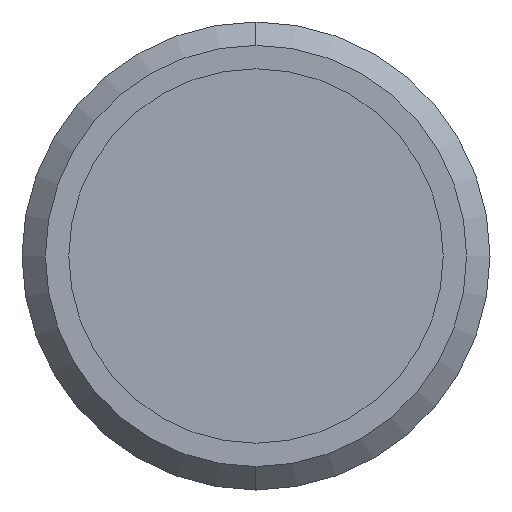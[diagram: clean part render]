
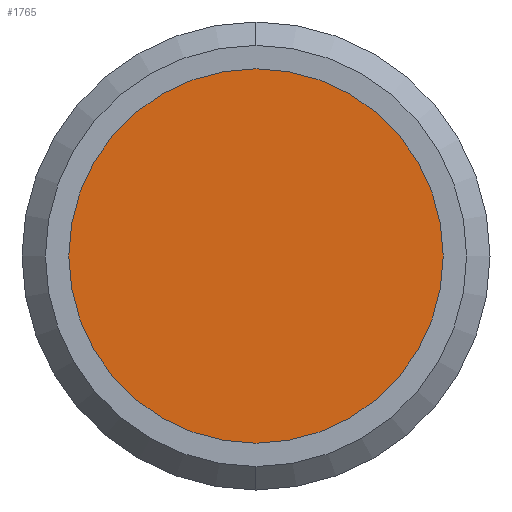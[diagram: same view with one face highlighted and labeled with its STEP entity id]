
A CAD part, left-side view. The second image highlights one B-rep face of the part: STEP entity #1765.
In plain terms, the highlighted planar face has unit normal (-1, 0, 0).
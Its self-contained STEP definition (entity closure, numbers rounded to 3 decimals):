
#146 = DIRECTION ( 'NONE',  ( 0., 0., 1. ) ) ;
#252 = DIRECTION ( 'NONE',  ( -1., 0., 0. ) ) ;
#375 = ORIENTED_EDGE ( 'NONE', *, *, #671, .T. ) ;
#530 = AXIS2_PLACEMENT_3D ( 'NONE', #2679, #252, #683 ) ;
#557 = CARTESIAN_POINT ( 'NONE',  ( 3., 0., 0. ) ) ;
#671 = EDGE_CURVE ( 'NONE', #1020, #1451, #1792, .T. ) ;
#683 = DIRECTION ( 'NONE',  ( 0., 0., 1. ) ) ;
#990 = CARTESIAN_POINT ( 'NONE',  ( 3., 0., 0. ) ) ;
#1020 = VERTEX_POINT ( 'NONE', #2126 ) ;
#1059 = CIRCLE ( 'NONE', #530, 4. ) ;
#1066 = DIRECTION ( 'NONE',  ( -1., 0., 0. ) ) ;
#1451 = VERTEX_POINT ( 'NONE', #1674 ) ;
#1643 = DIRECTION ( 'NONE',  ( 0., 0., 1. ) ) ;
#1674 = CARTESIAN_POINT ( 'NONE',  ( 3., 0., -4. ) ) ;
#1688 = ORIENTED_EDGE ( 'NONE', *, *, #2540, .T. ) ;
#1765 = ADVANCED_FACE ( 'NONE', ( #2318 ), #2549, .T. ) ;
#1792 = CIRCLE ( 'NONE', #1983, 4. ) ;
#1899 = DIRECTION ( 'NONE',  ( -1., 0., 0. ) ) ;
#1983 = AXIS2_PLACEMENT_3D ( 'NONE', #990, #1066, #1643 ) ;
#2126 = CARTESIAN_POINT ( 'NONE',  ( 3., 0., 4. ) ) ;
#2318 = FACE_OUTER_BOUND ( 'NONE', #2648, .T. ) ;
#2540 = EDGE_CURVE ( 'NONE', #1451, #1020, #1059, .T. ) ;
#2549 = PLANE ( 'NONE',  #2775 ) ;
#2648 = EDGE_LOOP ( 'NONE', ( #375, #1688 ) ) ;
#2679 = CARTESIAN_POINT ( 'NONE',  ( 3., 0., 0. ) ) ;
#2775 = AXIS2_PLACEMENT_3D ( 'NONE', #557, #1899, #146 ) ;
